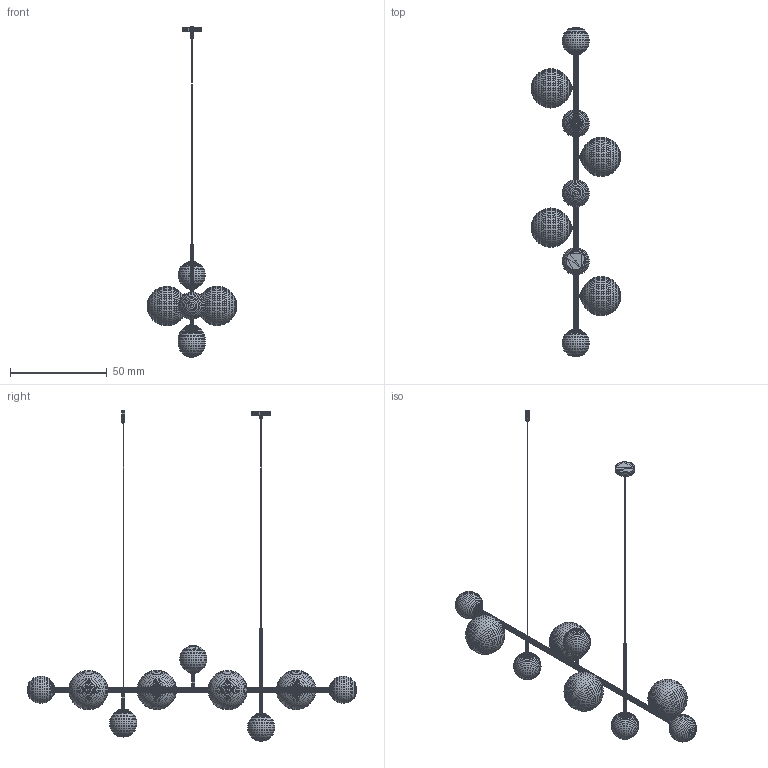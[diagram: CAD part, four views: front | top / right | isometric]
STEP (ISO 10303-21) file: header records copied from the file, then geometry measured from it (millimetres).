
FILE_DESCRIPTION(/* description */ (''),/* implementation_level */ '2;1');
FILE_NAME(/* name */ '1092N1',/* time_stamp */ '2023-03-15T21:20:32+01:00',/* author */ (''),/* organization */ (''),/* preprocessor_version */ 'ST-DEVELOPER v16.5',/* originating_system */ 'Rhino 7.22',/* authorisation */ '');
FILE_SCHEMA (('AUTOMOTIVE_DESIGN'));
Products named in the file (1): Document
Bounding box: 46.34 x 170.59 x 170.87 mm (x, y, z)
Volume: 25950.9 mm3; surface area: 10873 mm2
Topology: 30 solids, 39 shells, 24534 faces, 47815 edges, 23347 vertices
Faces by surface type: plane 18683, bspline 5851
Entity records: 511057 total; most frequent: CARTESIAN_POINT 161067, ORIENTED_EDGE 95054, EDGE_CURVE 47815, B_SPLINE_CURVE_WITH_KNOTS 47815, ADVANCED_FACE 24534, FACE_OUTER_BOUND 24534, EDGE_LOOP 24534, VERTEX_POINT 23347
